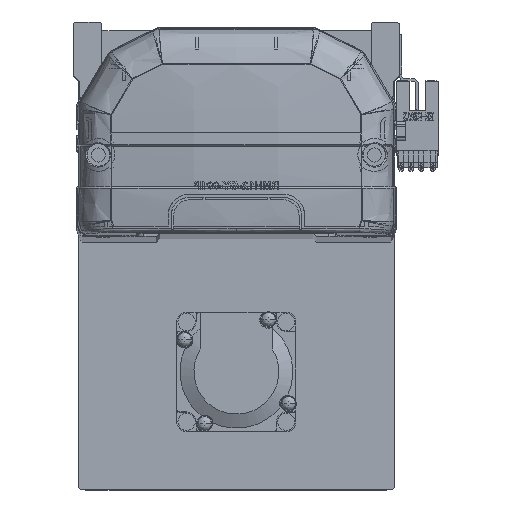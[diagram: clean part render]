
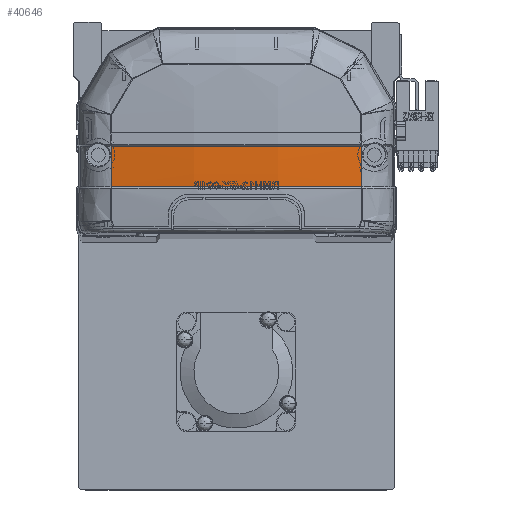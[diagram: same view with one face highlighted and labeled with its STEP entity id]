
A CAD part, top view. The second image highlights one B-rep face of the part: STEP entity #40646.
In plain terms, the highlighted free-form (B-spline) face has degree [3, 3] with [4, 4] control points.
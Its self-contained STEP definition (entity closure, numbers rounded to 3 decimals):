
#5053 = CARTESIAN_POINT ( 'NONE',  ( -26.721, 15.83, -7.624 ) ) ;
#5102 = ORIENTED_EDGE ( 'NONE', *, *, #11454, .T. ) ;
#5180 = CARTESIAN_POINT ( 'NONE',  ( -13.598, 15.499, -10.032 ) ) ;
#5767 = CARTESIAN_POINT ( 'NONE',  ( -13.598, 24.342, -10.47 ) ) ;
#7544 = ORIENTED_EDGE ( 'NONE', *, *, #56009, .F. ) ;
#7584 = CARTESIAN_POINT ( 'NONE',  ( -26.748, 28.706, -8.432 ) ) ;
#8184 = ORIENTED_EDGE ( 'NONE', *, *, #52670, .F. ) ;
#9584 = CARTESIAN_POINT ( 'NONE',  ( -40.461, 24.47, -6.231 ) ) ;
#9821 = CARTESIAN_POINT ( 'NONE',  ( -39.973, 20.118, -6.142 ) ) ;
#10164 = CARTESIAN_POINT ( 'NONE',  ( 40.461, 28.832, -6.296 ) ) ;
#10776 = B_SPLINE_CURVE_WITH_KNOTS ( 'NONE', 3,
 ( #42319, #37930, #51209, #42128 ),
 .UNSPECIFIED., .F., .F.,
 ( 4, 4 ),
 ( 0., 1. ),
 .UNSPECIFIED. ) ;
#10951 = CARTESIAN_POINT ( 'NONE',  ( 39.985, 15.83, -5.879 ) ) ;
#11454 = EDGE_CURVE ( 'NONE', #38575, #43328, #38861, .T. ) ;
#12003 = CARTESIAN_POINT ( 'NONE',  ( -39.963, 28.706, -6.372 ) ) ;
#12196 = CARTESIAN_POINT ( 'NONE',  ( 13.375, 28.707, -9.468 ) ) ;
#12681 = EDGE_LOOP ( 'NONE', ( #13257, #8184, #5102, #7544 ) ) ;
#13257 = ORIENTED_EDGE ( 'NONE', *, *, #31096, .T. ) ;
#14076 = CARTESIAN_POINT ( 'NONE',  ( -23.389, 15.83, -7.947 ) ) ;
#14620 = CARTESIAN_POINT ( 'NONE',  ( -39.963, 28.706, -6.372 ) ) ;
#14689 = VERTEX_POINT ( 'NONE', #10951 ) ;
#15004 = CARTESIAN_POINT ( 'NONE',  ( -13.598, 28.769, -10.535 ) ) ;
#19487 = CARTESIAN_POINT ( 'NONE',  ( -36.679, 15.83, -6.395 ) ) ;
#23794 = CARTESIAN_POINT ( 'NONE',  ( 40.461, 24.47, -6.231 ) ) ;
#23839 = VERTEX_POINT ( 'NONE', #48069 ) ;
#24004 = CARTESIAN_POINT ( 'NONE',  ( 13.598, 24.342, -10.47 ) ) ;
#25275 = B_SPLINE_CURVE_WITH_KNOTS ( 'NONE', 3,
 ( #12003, #7584, #39617, #12196, #27024, #54303 ),
 .UNSPECIFIED., .F., .F.,
 ( 4, 2, 4 ),
 ( 0., 0.5, 1. ),
 .UNSPECIFIED. ) ;
#27024 = CARTESIAN_POINT ( 'NONE',  ( 26.749, 28.706, -8.432 ) ) ;
#27906 = CARTESIAN_POINT ( 'NONE',  ( -13.384, 15.83, -8.724 ) ) ;
#28097 = CARTESIAN_POINT ( 'NONE',  ( -33.365, 15.83, -6.848 ) ) ;
#28412 = CARTESIAN_POINT ( 'NONE',  ( 13.598, 15.499, -10.032 ) ) ;
#28614 = CARTESIAN_POINT ( 'NONE',  ( -13.598, 19.918, -10.302 ) ) ;
#28798 = CARTESIAN_POINT ( 'NONE',  ( 13.598, 19.918, -10.302 ) ) ;
#31096 = EDGE_CURVE ( 'NONE', #14689, #23839, #10776, .T. ) ;
#34907 =( BOUNDED_SURFACE ( )  B_SPLINE_SURFACE ( 3, 3, ( 
 ( #42396, #51296, #23794, #10164 ),
 ( #28412, #28798, #24004, #56096 ),
 ( #5180, #28614, #5767, #15004 ),
 ( #47032, #37026, #9584, #47230 ) ),
 .UNSPECIFIED., .F., .F., .F. ) 
 B_SPLINE_SURFACE_WITH_KNOTS ( ( 4, 4 ),
 ( 4, 4 ),
 ( 0., 1. ),
 ( 0., 1. ),
 .UNSPECIFIED. ) 
 GEOMETRIC_REPRESENTATION_ITEM ( )  RATIONAL_B_SPLINE_SURFACE ( (
 ( 1., 1., 1., 1.),
 ( 0.992, 0.992, 0.992, 0.992),
 ( 0.992, 0.992, 0.992, 0.992),
 ( 1., 1., 1., 1.) ) ) 
 REPRESENTATION_ITEM ( '' )  SURFACE ( )  );
#37026 = CARTESIAN_POINT ( 'NONE',  ( -40.461, 20.111, -6.066 ) ) ;
#37053 = CARTESIAN_POINT ( 'NONE',  ( -39.985, 15.83, -5.879 ) ) ;
#37580 = CARTESIAN_POINT ( 'NONE',  ( -39.985, 15.83, -5.879 ) ) ;
#37930 = CARTESIAN_POINT ( 'NONE',  ( 39.973, 20.12, -6.142 ) ) ;
#38575 = VERTEX_POINT ( 'NONE', #45593 ) ;
#38861 = B_SPLINE_CURVE_WITH_KNOTS ( 'NONE', 3,
 ( #14620, #46662, #9821, #37053 ),
 .UNSPECIFIED., .F., .F.,
 ( 4, 4 ),
 ( 0., 1. ),
 .UNSPECIFIED. ) ;
#39617 = CARTESIAN_POINT ( 'NONE',  ( -13.373, 28.707, -9.468 ) ) ;
#40646 = ADVANCED_FACE ( 'NONE', ( #40876 ), #34907, .F. ) ;
#40876 = FACE_OUTER_BOUND ( 'NONE', #12681, .T. ) ;
#41294 = B_SPLINE_CURVE_WITH_KNOTS ( 'NONE', 3,
 ( #50159, #49752, #41498, #55184, #27906, #14076, #5053, #28097, #19487, #46528 ),
 .UNSPECIFIED., .F., .F.,
 ( 4, 2, 2, 2, 4 ),
 ( 0., 0.04, 0.06, 0.07, 0.08 ),
 .UNSPECIFIED. ) ;
#41498 = CARTESIAN_POINT ( 'NONE',  ( 13.38, 15.83, -8.984 ) ) ;
#42128 = CARTESIAN_POINT ( 'NONE',  ( 39.963, 28.706, -6.372 ) ) ;
#42319 = CARTESIAN_POINT ( 'NONE',  ( 39.985, 15.83, -5.879 ) ) ;
#42396 = CARTESIAN_POINT ( 'NONE',  ( 40.461, 15.757, -5.8 ) ) ;
#43328 = VERTEX_POINT ( 'NONE', #37580 ) ;
#45593 = CARTESIAN_POINT ( 'NONE',  ( -39.963, 28.706, -6.372 ) ) ;
#46528 = CARTESIAN_POINT ( 'NONE',  ( -39.985, 15.83, -5.879 ) ) ;
#46662 = CARTESIAN_POINT ( 'NONE',  ( -39.966, 24.412, -6.306 ) ) ;
#47032 = CARTESIAN_POINT ( 'NONE',  ( -40.461, 15.757, -5.8 ) ) ;
#47230 = CARTESIAN_POINT ( 'NONE',  ( -40.461, 28.832, -6.296 ) ) ;
#48069 = CARTESIAN_POINT ( 'NONE',  ( 39.963, 28.706, -6.372 ) ) ;
#49752 = CARTESIAN_POINT ( 'NONE',  ( 26.761, 15.83, -7.945 ) ) ;
#50159 = CARTESIAN_POINT ( 'NONE',  ( 39.985, 15.83, -5.879 ) ) ;
#51209 = CARTESIAN_POINT ( 'NONE',  ( 39.966, 24.413, -6.306 ) ) ;
#51296 = CARTESIAN_POINT ( 'NONE',  ( 40.461, 20.111, -6.066 ) ) ;
#52670 = EDGE_CURVE ( 'NONE', #38575, #23839, #25275, .T. ) ;
#54303 = CARTESIAN_POINT ( 'NONE',  ( 39.963, 28.706, -6.372 ) ) ;
#55184 = CARTESIAN_POINT ( 'NONE',  ( -6.692, 15.83, -8.984 ) ) ;
#56009 = EDGE_CURVE ( 'NONE', #14689, #43328, #41294, .T. ) ;
#56096 = CARTESIAN_POINT ( 'NONE',  ( 13.598, 28.769, -10.535 ) ) ;
